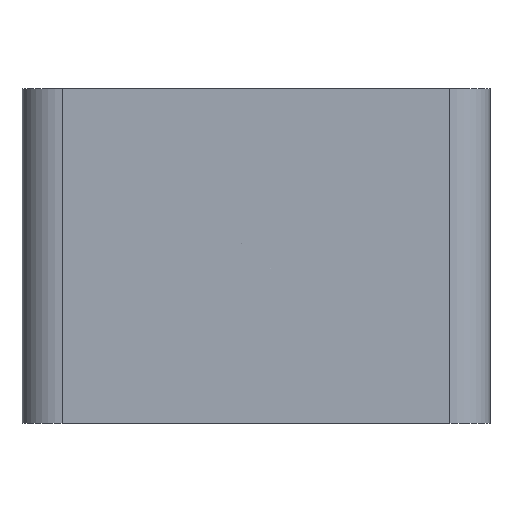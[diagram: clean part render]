
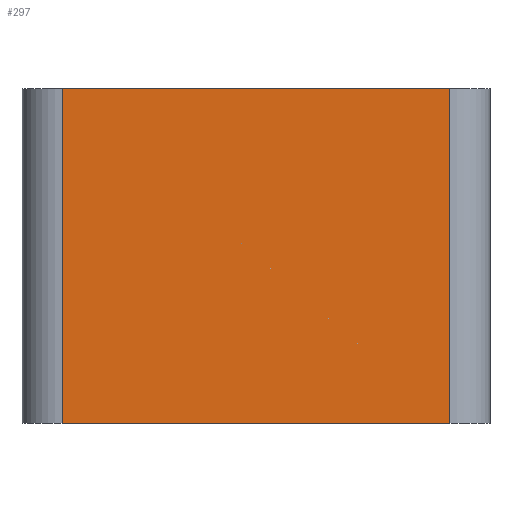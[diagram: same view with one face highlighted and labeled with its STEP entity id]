
A CAD part, front view. The second image highlights one B-rep face of the part: STEP entity #297.
In plain terms, the highlighted planar face has unit normal (0, -1, 0).
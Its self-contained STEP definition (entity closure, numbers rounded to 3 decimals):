
#166=FACE_OUTER_BOUND('',#1003,.T.);
#297=ADVANCED_FACE('',(#166),#458,.T.);
#458=PLANE('',#2878);
#569=LINE('',#4102,#706);
#570=LINE('',#4183,#707);
#571=LINE('',#4186,#708);
#572=LINE('',#4187,#709);
#706=VECTOR('',#3066,1.);
#707=VECTOR('',#3071,1.);
#708=VECTOR('',#3072,1.);
#709=VECTOR('',#3073,1.);
#1003=EDGE_LOOP('',(#1302,#1303,#1304,#1305));
#1302=ORIENTED_EDGE('',*,*,#2350,.T.);
#1303=ORIENTED_EDGE('',*,*,#2351,.T.);
#1304=ORIENTED_EDGE('',*,*,#2335,.T.);
#1305=ORIENTED_EDGE('',*,*,#2352,.T.);
#2065=VERTEX_POINT('',#4101);
#2066=VERTEX_POINT('',#4103);
#2080=VERTEX_POINT('',#4184);
#2081=VERTEX_POINT('',#4185);
#2335=EDGE_CURVE('',#2066,#2065,#569,.T.);
#2350=EDGE_CURVE('',#2080,#2081,#570,.T.);
#2351=EDGE_CURVE('',#2081,#2066,#571,.T.);
#2352=EDGE_CURVE('',#2065,#2080,#572,.T.);
#2878=AXIS2_PLACEMENT_3D('',#4188,#3074,#3075);
#3066=DIRECTION('',(-1.,0.,0.));
#3071=DIRECTION('',(1.,0.,0.));
#3072=DIRECTION('',(0.,0.,1.));
#3073=DIRECTION('',(0.,0.,-1.));
#3074=DIRECTION('',(0.,-1.,0.));
#3075=DIRECTION('',(0.,0.,-1.));
#4101=CARTESIAN_POINT('',(3.,0.,25.));
#4102=CARTESIAN_POINT('',(17.5,0.,25.));
#4103=CARTESIAN_POINT('',(32.,0.,25.));
#4183=CARTESIAN_POINT('',(17.5,0.,0.));
#4184=CARTESIAN_POINT('',(3.,0.,0.));
#4185=CARTESIAN_POINT('',(32.,0.,0.));
#4186=CARTESIAN_POINT('',(32.,0.,0.));
#4187=CARTESIAN_POINT('',(3.,0.,0.));
#4188=CARTESIAN_POINT('',(17.5,0.,0.));
